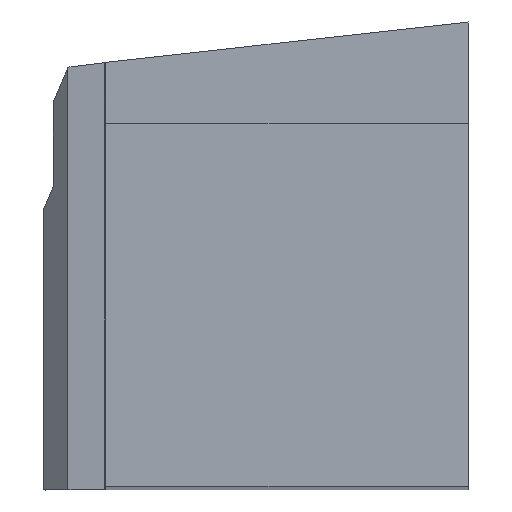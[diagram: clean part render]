
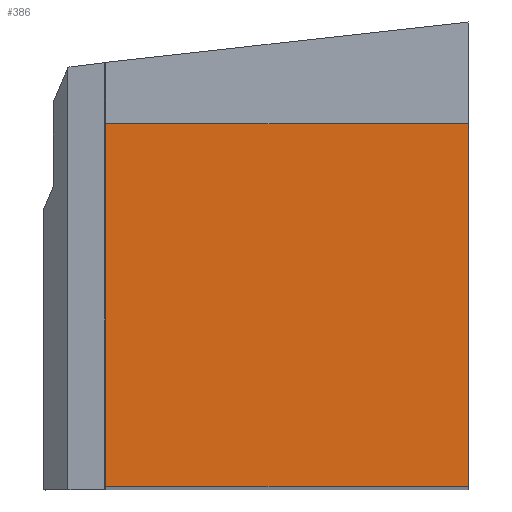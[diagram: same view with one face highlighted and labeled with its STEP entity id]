
A CAD part, top view. The second image highlights one B-rep face of the part: STEP entity #386.
In plain terms, the highlighted planar face has unit normal (0, 0, 1).
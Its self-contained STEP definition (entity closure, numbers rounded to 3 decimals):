
#182=EDGE_CURVE('',#218,#416,#491,.T.);
#218=VERTEX_POINT('',#531);
#268=EDGE_CURVE('',#416,#448,#584,.T.);
#382=EDGE_CURVE('',#448,#432,#709,.T.);
#386=ADVANCED_FACE('',(#713),#714,.F.);
#416=VERTEX_POINT('',#748);
#428=EDGE_CURVE('',#432,#218,#762,.T.);
#432=VERTEX_POINT('',#766);
#448=VERTEX_POINT('',#783);
#491=LINE('',#828,#829);
#531=CARTESIAN_POINT('',(-25.0,25.0,0.0));
#584=LINE('',#962,#963);
#709=LINE('',#1137,#1138);
#713=FACE_OUTER_BOUND('',#1142,.T.);
#714=PLANE('',#1143);
#748=CARTESIAN_POINT('',(0.0,25.0,0.0));
#762=LINE('',#1200,#1201);
#766=CARTESIAN_POINT('',(-25.0,0.,0.0));
#783=CARTESIAN_POINT('',(0.0,0.,0.0));
#828=CARTESIAN_POINT('',(-25.0,25.0,0.0));
#829=VECTOR('',#1266,1.0);
#962=CARTESIAN_POINT('',(0.0,25.0,0.0));
#963=VECTOR('',#1364,1.0);
#1137=CARTESIAN_POINT('',(0.0,0.,0.0));
#1138=VECTOR('',#1507,1.0);
#1142=EDGE_LOOP('',(#1509,#1510,#1511,#1512));
#1143=AXIS2_PLACEMENT_3D('',#1513,#1514,#1515);
#1200=CARTESIAN_POINT('',(-25.0,0.,0.0));
#1201=VECTOR('',#1575,1.0);
#1266=DIRECTION('',(1.0,0.0,0.0));
#1364=DIRECTION('',(0.0,-1.0,0.0));
#1507=DIRECTION('',(-1.0,0.0,0.0));
#1509=ORIENTED_EDGE('',*,*,#182,.F.);
#1510=ORIENTED_EDGE('',*,*,#428,.F.);
#1511=ORIENTED_EDGE('',*,*,#382,.F.);
#1512=ORIENTED_EDGE('',*,*,#268,.F.);
#1513=CARTESIAN_POINT('',(-12.5,12.5,0.0));
#1514=DIRECTION('',(0.0,0.0,-1.0));
#1515=DIRECTION('',(-1.0,0.0,0.0));
#1575=DIRECTION('',(0.0,1.0,0.0));
